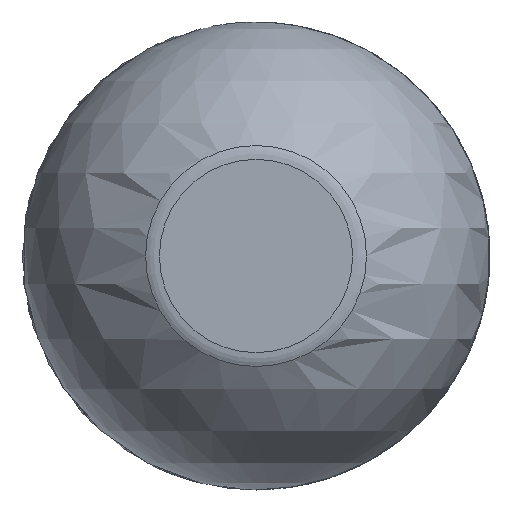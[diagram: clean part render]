
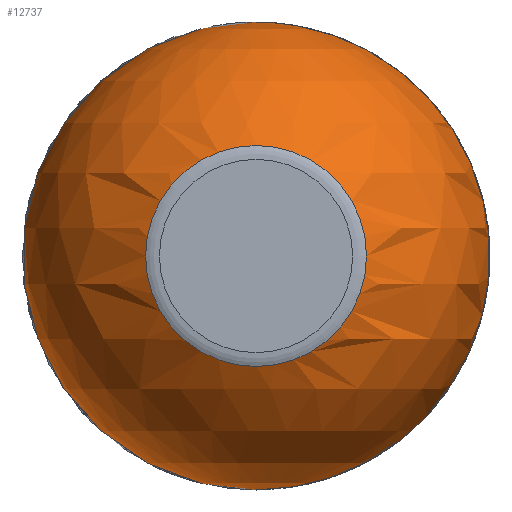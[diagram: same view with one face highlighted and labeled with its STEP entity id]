
A CAD part, left-side view. The second image highlights one B-rep face of the part: STEP entity #12737.
In plain terms, the highlighted spherical face has radius 12.179 mm.
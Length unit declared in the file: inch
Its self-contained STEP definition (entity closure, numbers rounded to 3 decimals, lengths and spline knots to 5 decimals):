
#3008=SPHERICAL_SURFACE('',#13534,0.4795);
#3451=FACE_BOUND('',#4295,.T.);
#3452=FACE_BOUND('',#4296,.T.);
#4295=EDGE_LOOP('',(#8777));
#4296=EDGE_LOOP('',(#8778));
#5125=CIRCLE('',#13526,0.26464);
#5128=CIRCLE('',#13533,0.2265);
#5465=VERTEX_POINT('',#17113);
#5468=VERTEX_POINT('',#17123);
#6791=EDGE_CURVE('',#5465,#5465,#5125,.T.);
#6794=EDGE_CURVE('',#5468,#5468,#5128,.T.);
#8777=ORIENTED_EDGE('',*,*,#6791,.T.);
#8778=ORIENTED_EDGE('',*,*,#6794,.T.);
#12737=ADVANCED_FACE('',(#3451,#3452),#3008,.T.);
#13526=AXIS2_PLACEMENT_3D('',#17114,#14405,#14406);
#13533=AXIS2_PLACEMENT_3D('',#17124,#14419,#14420);
#13534=AXIS2_PLACEMENT_3D('',#17125,#14421,#14422);
#14405=DIRECTION('center_axis',(-1.,0.,0.));
#14406=DIRECTION('ref_axis',(0.,0.,-1.));
#14419=DIRECTION('center_axis',(1.,0.,0.));
#14420=DIRECTION('ref_axis',(0.,0.,-1.));
#14421=DIRECTION('center_axis',(0.,0.,1.));
#14422=DIRECTION('ref_axis',(1.,0.,0.));
#17113=CARTESIAN_POINT('',(-0.46231,0.14868,0.));
#17114=CARTESIAN_POINT('Origin',(-0.46231,0.41332,0.));
#17123=CARTESIAN_POINT('',(-1.2848,0.63982,0.));
#17124=CARTESIAN_POINT('Origin',(-1.2848,0.41332,0.));
#17125=CARTESIAN_POINT('Origin',(-0.86217,0.41332,0.));
